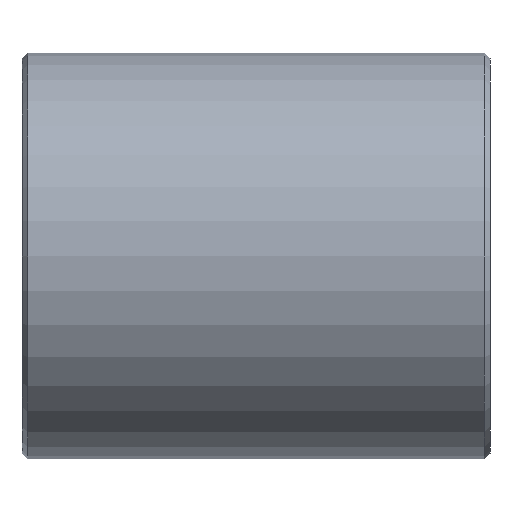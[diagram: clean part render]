
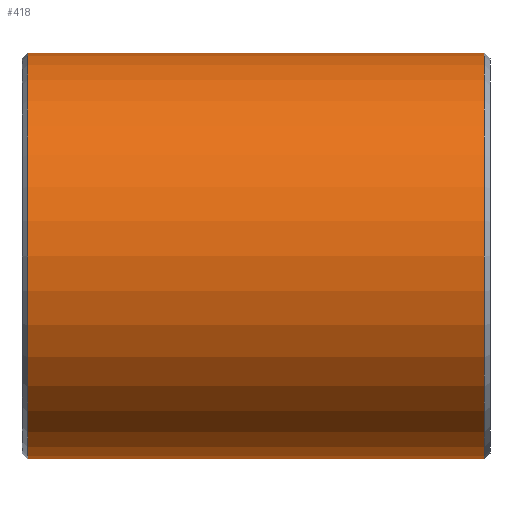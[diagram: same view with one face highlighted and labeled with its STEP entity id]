
A CAD part, front view. The second image highlights one B-rep face of the part: STEP entity #418.
In plain terms, the highlighted cylindrical face has radius 26 mm (diameter 52 mm), a full revolution.
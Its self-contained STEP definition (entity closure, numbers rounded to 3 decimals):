
#13=B_SPLINE_CURVE_WITH_KNOTS('',3,(#676,#677,#678,#679,#680,#681,#682,
#683,#684,#685,#686,#687,#688,#689,#690,#691,#692,#693,#694,#695,#696,#697),
 .UNSPECIFIED.,.F.,.F.,(4,2,2,2,2,2,2,2,2,2,4),(0.,0.196,0.393,
0.589,0.786,0.982,1.179,
1.375,1.572,1.768,1.954),
 .UNSPECIFIED.);
#14=B_SPLINE_CURVE_WITH_KNOTS('',3,(#698,#699,#700,#701,#702,#703),
 .UNSPECIFIED.,.F.,.F.,(4,2,4),(2.761,2.947,3.143),
 .UNSPECIFIED.);
#15=B_SPLINE_CURVE_WITH_KNOTS('',3,(#715,#716,#717,#718,#719,#720,#721,
#722,#723,#724,#725,#726,#727,#728,#729,#730,#731,#732,#733,#734,#735,#736),
 .UNSPECIFIED.,.F.,.F.,(4,2,2,2,2,2,2,2,2,2,4),(1.189,1.375,
1.572,1.768,1.964,2.161,2.357,
2.554,2.75,2.947,3.143),
 .UNSPECIFIED.);
#16=B_SPLINE_CURVE_WITH_KNOTS('',3,(#737,#738,#739,#740,#741,#742),
 .UNSPECIFIED.,.F.,.F.,(4,2,4),(0.,0.196,0.382),
 .UNSPECIFIED.);
#21=LINE('',#651,#33);
#22=LINE('',#654,#34);
#26=LINE('',#664,#38);
#30=LINE('',#671,#42);
#33=VECTOR('',#518,24.949);
#34=VECTOR('',#521,9.846);
#38=VECTOR('',#531,24.949);
#42=VECTOR('',#537,9.846);
#66=FACE_OUTER_BOUND('',#136,.T.);
#82=CYLINDRICAL_SURFACE('',#462,26.);
#97=FACE_BOUND('',#137,.T.);
#98=FACE_BOUND('',#138,.T.);
#136=EDGE_LOOP('',(#317));
#137=EDGE_LOOP('',(#318,#319,#320,#321,#322,#323,#324,#325));
#138=EDGE_LOOP('',(#326));
#178=CIRCLE('',#463,26.);
#179=CIRCLE('',#464,26.);
#193=VERTEX_POINT('',#620);
#195=VERTEX_POINT('',#625);
#200=VERTEX_POINT('',#649);
#201=VERTEX_POINT('',#653);
#204=VERTEX_POINT('',#663);
#206=VERTEX_POINT('',#669);
#207=VERTEX_POINT('',#675);
#211=VERTEX_POINT('',#712);
#212=VERTEX_POINT('',#714);
#213=VERTEX_POINT('',#743);
#238=EDGE_CURVE('',#193,#200,#21,.T.);
#239=EDGE_CURVE('',#201,#193,#22,.T.);
#244=EDGE_CURVE('',#204,#195,#26,.T.);
#248=EDGE_CURVE('',#195,#206,#30,.T.);
#250=EDGE_CURVE('',#207,#204,#13,.T.);
#251=EDGE_CURVE('',#200,#207,#14,.T.);
#255=EDGE_CURVE('',#211,#211,#178,.T.);
#256=EDGE_CURVE('',#206,#212,#15,.T.);
#257=EDGE_CURVE('',#212,#201,#16,.T.);
#258=EDGE_CURVE('',#213,#213,#179,.T.);
#317=ORIENTED_EDGE('',*,*,#255,.T.);
#318=ORIENTED_EDGE('',*,*,#238,.T.);
#319=ORIENTED_EDGE('',*,*,#251,.T.);
#320=ORIENTED_EDGE('',*,*,#250,.T.);
#321=ORIENTED_EDGE('',*,*,#244,.T.);
#322=ORIENTED_EDGE('',*,*,#248,.T.);
#323=ORIENTED_EDGE('',*,*,#256,.T.);
#324=ORIENTED_EDGE('',*,*,#257,.T.);
#325=ORIENTED_EDGE('',*,*,#239,.T.);
#326=ORIENTED_EDGE('',*,*,#258,.F.);
#418=ADVANCED_FACE('',(#66,#97,#98),#82,.T.);
#462=AXIS2_PLACEMENT_3D('',#711,#552,#553);
#463=AXIS2_PLACEMENT_3D('',#713,#554,#555);
#464=AXIS2_PLACEMENT_3D('',#744,#556,#557);
#518=DIRECTION('',(1.,0.,0.));
#521=DIRECTION('',(1.,0.,0.));
#531=DIRECTION('',(-1.,0.,0.));
#537=DIRECTION('',(-1.,0.,0.));
#552=DIRECTION('center_axis',(1.,0.,0.));
#553=DIRECTION('ref_axis',(0.,1.,0.));
#554=DIRECTION('center_axis',(1.,0.,0.));
#555=DIRECTION('ref_axis',(0.,1.,0.));
#556=DIRECTION('center_axis',(1.,0.,0.));
#557=DIRECTION('ref_axis',(0.,1.,0.));
#620=CARTESIAN_POINT('',(-7.552,25.728,-3.75));
#625=CARTESIAN_POINT('',(-7.552,25.728,3.75));
#649=CARTESIAN_POINT('',(17.398,25.728,-3.75));
#651=CARTESIAN_POINT('',(0.,25.728,-3.75));
#653=CARTESIAN_POINT('',(-17.398,25.728,-3.75));
#654=CARTESIAN_POINT('',(0.,25.728,-3.75));
#663=CARTESIAN_POINT('',(17.398,25.728,3.75));
#664=CARTESIAN_POINT('',(0.,25.728,3.75));
#669=CARTESIAN_POINT('',(-17.398,25.728,3.75));
#671=CARTESIAN_POINT('',(0.,25.728,3.75));
#675=CARTESIAN_POINT('',(21.,25.475,-5.2));
#676=CARTESIAN_POINT('Ctrl Pts',(21.,25.475,-5.2));
#677=CARTESIAN_POINT('Ctrl Pts',(21.655,25.475,-5.2));
#678=CARTESIAN_POINT('Ctrl Pts',(22.352,25.503,-5.069));
#679=CARTESIAN_POINT('Ctrl Pts',(23.633,25.602,-4.538));
#680=CARTESIAN_POINT('Ctrl Pts',(24.216,25.673,-4.138));
#681=CARTESIAN_POINT('Ctrl Pts',(25.138,25.804,-3.216));
#682=CARTESIAN_POINT('Ctrl Pts',(25.538,25.874,-2.633));
#683=CARTESIAN_POINT('Ctrl Pts',(26.069,25.973,-1.352));
#684=CARTESIAN_POINT('Ctrl Pts',(26.2,26.,-0.655));
#685=CARTESIAN_POINT('Ctrl Pts',(26.2,26.,0.655));
#686=CARTESIAN_POINT('Ctrl Pts',(26.069,25.973,1.352));
#687=CARTESIAN_POINT('Ctrl Pts',(25.538,25.874,2.633));
#688=CARTESIAN_POINT('Ctrl Pts',(25.138,25.804,3.216));
#689=CARTESIAN_POINT('Ctrl Pts',(24.216,25.673,4.138));
#690=CARTESIAN_POINT('Ctrl Pts',(23.633,25.602,4.538));
#691=CARTESIAN_POINT('Ctrl Pts',(22.352,25.503,5.069));
#692=CARTESIAN_POINT('Ctrl Pts',(21.655,25.475,5.2));
#693=CARTESIAN_POINT('Ctrl Pts',(20.345,25.475,5.2));
#694=CARTESIAN_POINT('Ctrl Pts',(19.648,25.503,5.069));
#695=CARTESIAN_POINT('Ctrl Pts',(18.401,25.6,4.552));
#696=CARTESIAN_POINT('Ctrl Pts',(17.846,25.665,4.18));
#697=CARTESIAN_POINT('Ctrl Pts',(17.398,25.728,3.75));
#698=CARTESIAN_POINT('Ctrl Pts',(17.398,25.728,-3.75));
#699=CARTESIAN_POINT('Ctrl Pts',(17.846,25.665,-4.18));
#700=CARTESIAN_POINT('Ctrl Pts',(18.401,25.6,-4.552));
#701=CARTESIAN_POINT('Ctrl Pts',(19.648,25.503,-5.069));
#702=CARTESIAN_POINT('Ctrl Pts',(20.345,25.475,-5.2));
#703=CARTESIAN_POINT('Ctrl Pts',(21.,25.475,-5.2));
#711=CARTESIAN_POINT('Origin',(0.,0.,0.));
#712=CARTESIAN_POINT('',(-29.293,26.,0.));
#713=CARTESIAN_POINT('Origin',(-29.293,0.,0.));
#714=CARTESIAN_POINT('',(-21.,25.475,-5.2));
#715=CARTESIAN_POINT('Ctrl Pts',(-17.398,25.728,3.75));
#716=CARTESIAN_POINT('Ctrl Pts',(-17.846,25.665,4.18));
#717=CARTESIAN_POINT('Ctrl Pts',(-18.401,25.6,4.552));
#718=CARTESIAN_POINT('Ctrl Pts',(-19.648,25.503,5.069));
#719=CARTESIAN_POINT('Ctrl Pts',(-20.345,25.475,5.2));
#720=CARTESIAN_POINT('Ctrl Pts',(-21.655,25.475,5.2));
#721=CARTESIAN_POINT('Ctrl Pts',(-22.352,25.503,5.069));
#722=CARTESIAN_POINT('Ctrl Pts',(-23.633,25.602,4.538));
#723=CARTESIAN_POINT('Ctrl Pts',(-24.216,25.673,4.138));
#724=CARTESIAN_POINT('Ctrl Pts',(-25.138,25.804,3.216));
#725=CARTESIAN_POINT('Ctrl Pts',(-25.538,25.874,2.633));
#726=CARTESIAN_POINT('Ctrl Pts',(-26.069,25.973,1.352));
#727=CARTESIAN_POINT('Ctrl Pts',(-26.2,26.,0.655));
#728=CARTESIAN_POINT('Ctrl Pts',(-26.2,26.,-0.655));
#729=CARTESIAN_POINT('Ctrl Pts',(-26.069,25.973,-1.352));
#730=CARTESIAN_POINT('Ctrl Pts',(-25.538,25.874,-2.633));
#731=CARTESIAN_POINT('Ctrl Pts',(-25.138,25.804,-3.216));
#732=CARTESIAN_POINT('Ctrl Pts',(-24.216,25.673,-4.138));
#733=CARTESIAN_POINT('Ctrl Pts',(-23.633,25.602,-4.538));
#734=CARTESIAN_POINT('Ctrl Pts',(-22.352,25.503,-5.069));
#735=CARTESIAN_POINT('Ctrl Pts',(-21.655,25.475,-5.2));
#736=CARTESIAN_POINT('Ctrl Pts',(-21.,25.475,-5.2));
#737=CARTESIAN_POINT('Ctrl Pts',(-21.,25.475,-5.2));
#738=CARTESIAN_POINT('Ctrl Pts',(-20.345,25.475,-5.2));
#739=CARTESIAN_POINT('Ctrl Pts',(-19.648,25.503,-5.069));
#740=CARTESIAN_POINT('Ctrl Pts',(-18.401,25.6,-4.552));
#741=CARTESIAN_POINT('Ctrl Pts',(-17.846,25.665,-4.18));
#742=CARTESIAN_POINT('Ctrl Pts',(-17.398,25.728,-3.75));
#743=CARTESIAN_POINT('',(29.293,26.,0.));
#744=CARTESIAN_POINT('Origin',(29.293,0.,0.));
